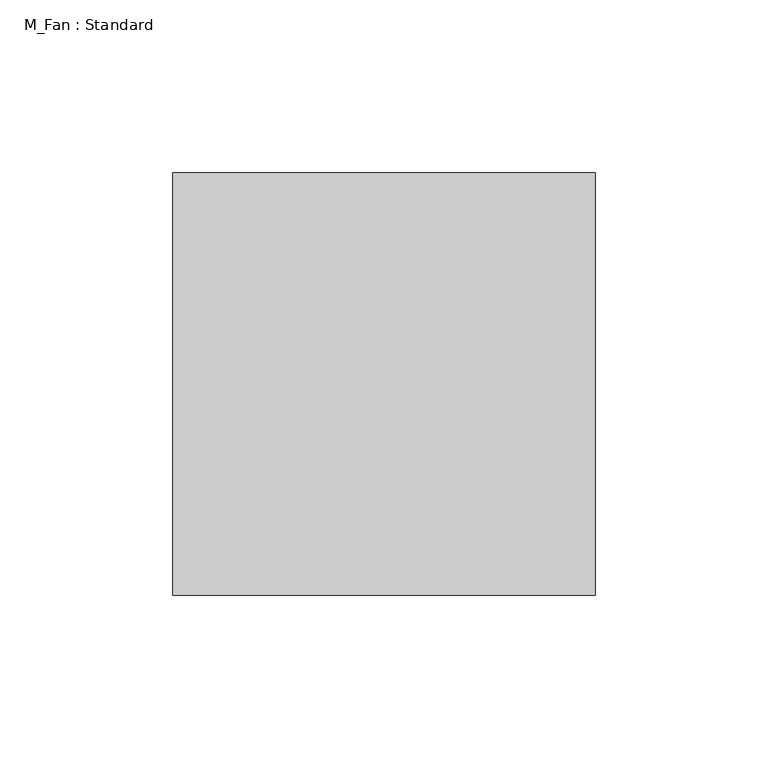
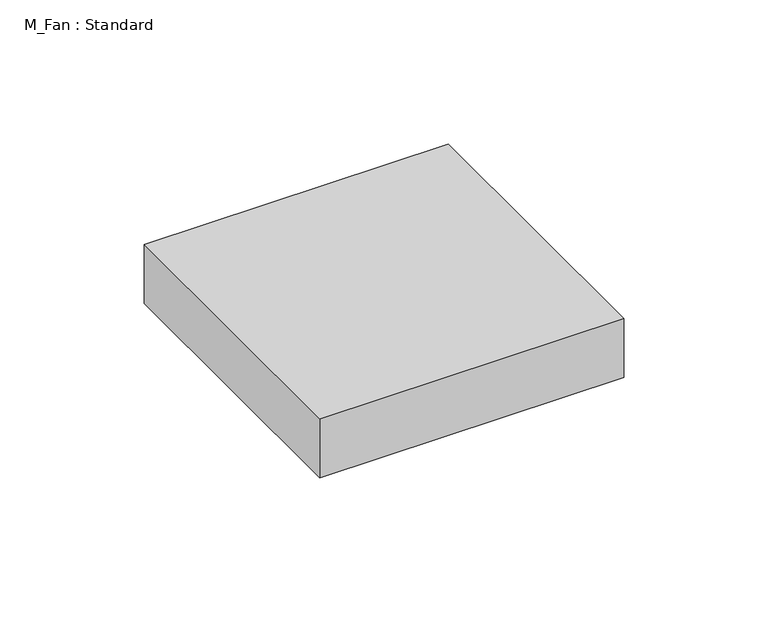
"""IFC4 building model written with IfcOpenShell, lengths in millimetres: proxy geometry, M_Fan : Standard."""

from ifc_helpers import new_model, si_unit, frame, origin, place, context, project, spatial, polyline, outline, extrude, source, transform, mapped, element, save


def m_fan_standard_eed13d24(model_context):
    return source(origin(), model_context, "Body", "SweptSolid", [
        extrude(outline(polyline([(61.0, 0.0), (61.0, -122.0), (-61.0, -122.0), (-61.0, 0.0), (61.0, 0.0)])), frame((0.0, 0.0, -25.0), z_axis=(0.0, 0.0, 1.0), x_axis=(1.0, 0.0, 0.0)), (0.0, 0.0, 1.0), 25.0),
    ])


if __name__ == "__main__":
    model = new_model("IFC4")
    model_context = context("Model", 3, world=origin())
    ifc_project = project(units=[si_unit("LENGTHUNIT", "METRE", prefix="MILLI")], contexts=[model_context])
    site = spatial("IfcSite", under=ifc_project)
    building = spatial("IfcBuilding", under=site)
    placement = place(None, origin())
    m_fan_standard_shape = m_fan_standard_eed13d24(model_context)
    element("IfcBuildingElementProxy", 1, Name="M_Fan : Standard", ObjectType="M_Fan : Standard", at=placement, inside=building, context=model_context, shape_type="MappedRepresentation", body=[
        mapped(m_fan_standard_shape, transform((0.0, 0.0, 0.0), x_axis=(1.0, 0.0, 0.0), y_axis=(0.0, 1.0, 0.0), z_axis=(0.0, 0.0, 1.0))),
    ])
    save(model, "model.ifc")
